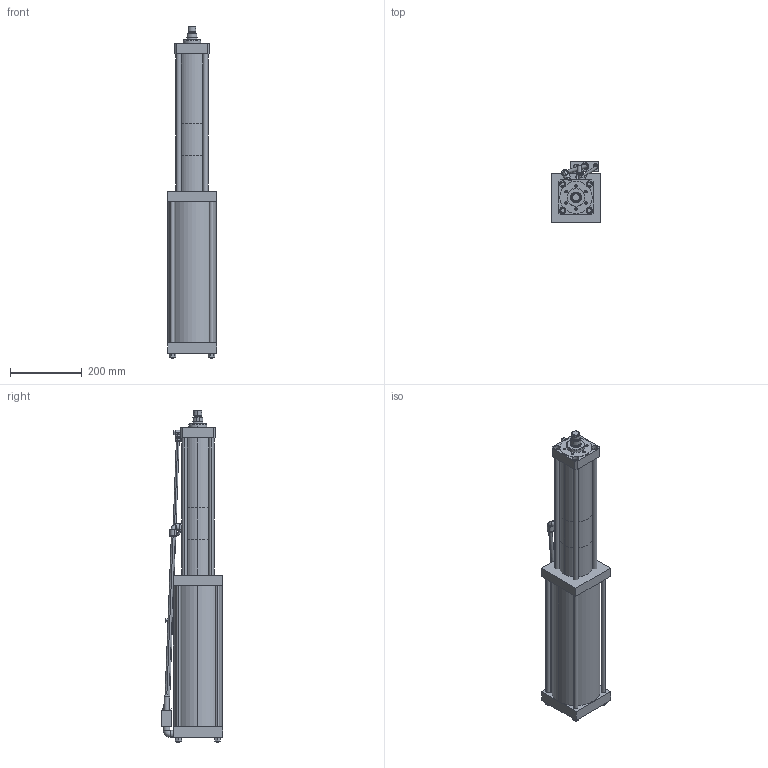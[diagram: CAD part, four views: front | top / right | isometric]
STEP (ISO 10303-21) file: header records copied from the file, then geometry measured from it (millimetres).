
FILE_DESCRIPTION (( 'STEP AP214' ), '1' );
FILE_NAME ('BS04-150-24S.STEP', '2025-09-16T11:52:37', ( 'Ranlm' ), ( '' ), 'SwSTEP 2.0', 'SolidWorks 2022', '' );
FILE_SCHEMA (( 'AUTOMOTIVE_DESIGN' ));
Length unit declared in the file: millimetre
Products named in the file (1): BS04-150-24S
Bounding box: 139 x 172 x 926.7 mm (x, y, z)
Volume: 10128275.7 mm3; surface area: 710982.3 mm2
Topology: 31 solids, 32 shells, 580 faces, 1273 edges, 781 vertices
Faces by surface type: plane 264, cylinder 196, cone 70, torus 38, bspline 10, sphere 2
Entity records: 23731 total; most frequent: CARTESIAN_POINT 4053, DIRECTION 2903, ORIENTED_EDGE 2490, EDGE_CURVE 1245, AXIS2_PLACEMENT_3D 1136, VERTEX_POINT 779, EDGE_LOOP 654, LINE 631
